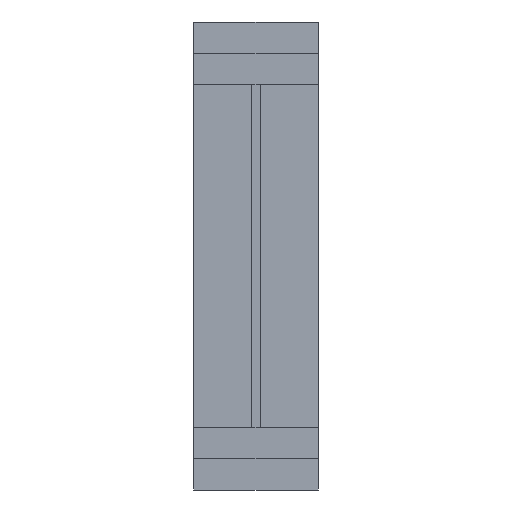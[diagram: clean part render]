
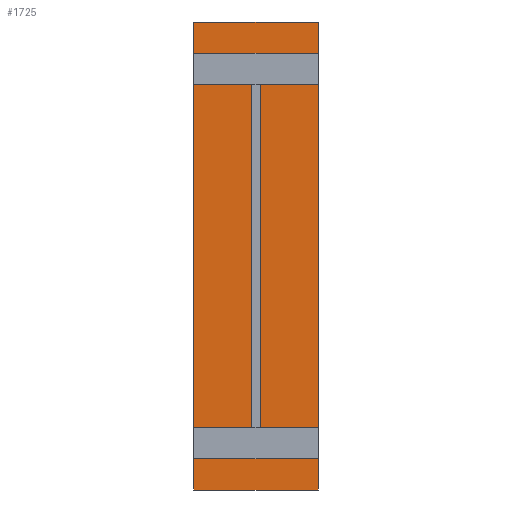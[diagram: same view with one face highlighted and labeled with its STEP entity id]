
A CAD part, front view. The second image highlights one B-rep face of the part: STEP entity #1725.
In plain terms, the highlighted planar face has unit normal (0, -1, 0).
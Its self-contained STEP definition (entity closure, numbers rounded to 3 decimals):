
#1 = CARTESIAN_POINT ( 'NONE',  ( 200., 205., 1400. ) ) ;
#19 = EDGE_CURVE ( 'NONE', #1149, #328, #725, .T. ) ;
#30 = CARTESIAN_POINT ( 'NONE',  ( 200., 205., 1300. ) ) ;
#36 = VECTOR ( 'NONE', #546, 1000. ) ;
#49 = ORIENTED_EDGE ( 'NONE', *, *, #1035, .F. ) ;
#51 = CARTESIAN_POINT ( 'NONE',  ( -190., 205., 100. ) ) ;
#59 = CARTESIAN_POINT ( 'NONE',  ( -190., 205., 0. ) ) ;
#61 = LINE ( 'NONE', #332, #1416 ) ;
#62 = CARTESIAN_POINT ( 'NONE',  ( 190., 205., 1200. ) ) ;
#64 = EDGE_CURVE ( 'NONE', #694, #1354, #61, .T. ) ;
#70 = CARTESIAN_POINT ( 'NONE',  ( 200., 205., 1400. ) ) ;
#89 = ORIENTED_EDGE ( 'NONE', *, *, #19, .F. ) ;
#99 = DIRECTION ( 'NONE',  ( -1., 0., 0. ) ) ;
#114 = VECTOR ( 'NONE', #1211, 1000. ) ;
#145 = VECTOR ( 'NONE', #1350, 1000. ) ;
#147 = DIRECTION ( 'NONE',  ( 0., 0., 1. ) ) ;
#171 = ORIENTED_EDGE ( 'NONE', *, *, #959, .F. ) ;
#217 = CARTESIAN_POINT ( 'NONE',  ( -190., 205., 1300. ) ) ;
#222 = ORIENTED_EDGE ( 'NONE', *, *, #1687, .F. ) ;
#241 = CARTESIAN_POINT ( 'NONE',  ( -190., 205., 1200. ) ) ;
#285 = ORIENTED_EDGE ( 'NONE', *, *, #1412, .F. ) ;
#289 = PLANE ( 'NONE',  #392 ) ;
#304 = VECTOR ( 'NONE', #967, 1000. ) ;
#328 = VERTEX_POINT ( 'NONE', #597 ) ;
#332 = CARTESIAN_POINT ( 'NONE',  ( -190., 205., 1200. ) ) ;
#337 = CARTESIAN_POINT ( 'NONE',  ( 200., 205., 100. ) ) ;
#338 = EDGE_CURVE ( 'NONE', #328, #434, #1016, .T. ) ;
#341 = LINE ( 'NONE', #59, #525 ) ;
#342 = ORIENTED_EDGE ( 'NONE', *, *, #1253, .F. ) ;
#348 = EDGE_CURVE ( 'NONE', #1422, #1614, #452, .T. ) ;
#370 = EDGE_CURVE ( 'NONE', #1212, #1461, #1187, .T. ) ;
#379 = ORIENTED_EDGE ( 'NONE', *, *, #585, .F. ) ;
#390 = VECTOR ( 'NONE', #926, 1000. ) ;
#391 = CARTESIAN_POINT ( 'NONE',  ( -200., 205., -100. ) ) ;
#392 = AXIS2_PLACEMENT_3D ( 'NONE', #844, #1122, #1114 ) ;
#409 = LINE ( 'NONE', #1511, #1339 ) ;
#434 = VERTEX_POINT ( 'NONE', #1683 ) ;
#452 = LINE ( 'NONE', #625, #695 ) ;
#455 = CARTESIAN_POINT ( 'NONE',  ( 200., 205., 0. ) ) ;
#492 = CARTESIAN_POINT ( 'NONE',  ( -200., 205., 1300. ) ) ;
#498 = CARTESIAN_POINT ( 'NONE',  ( 200., 205., 1300. ) ) ;
#514 = VERTEX_POINT ( 'NONE', #794 ) ;
#525 = VECTOR ( 'NONE', #1439, 1000. ) ;
#529 = CARTESIAN_POINT ( 'NONE',  ( 190., 205., 0. ) ) ;
#546 = DIRECTION ( 'NONE',  ( -1., 0., 0. ) ) ;
#549 = ORIENTED_EDGE ( 'NONE', *, *, #1176, .F. ) ;
#552 = CARTESIAN_POINT ( 'NONE',  ( 190., 205., 100. ) ) ;
#554 = VECTOR ( 'NONE', #147, 1000. ) ;
#573 = VECTOR ( 'NONE', #923, 1000. ) ;
#585 = EDGE_CURVE ( 'NONE', #1642, #914, #675, .T. ) ;
#591 = ORIENTED_EDGE ( 'NONE', *, *, #1580, .F. ) ;
#593 = CARTESIAN_POINT ( 'NONE',  ( 200., 205., 100. ) ) ;
#596 = LINE ( 'NONE', #337, #1169 ) ;
#597 = CARTESIAN_POINT ( 'NONE',  ( -190., 205., 100. ) ) ;
#617 = LINE ( 'NONE', #1323, #1734 ) ;
#621 = ORIENTED_EDGE ( 'NONE', *, *, #1045, .F. ) ;
#625 = CARTESIAN_POINT ( 'NONE',  ( 190., 205., 100. ) ) ;
#631 = CARTESIAN_POINT ( 'NONE',  ( 200., 205., 1200. ) ) ;
#661 = ORIENTED_EDGE ( 'NONE', *, *, #1125, .F. ) ;
#664 = CARTESIAN_POINT ( 'NONE',  ( -200., 205., 1300. ) ) ;
#668 = VECTOR ( 'NONE', #1692, 1000. ) ;
#675 = LINE ( 'NONE', #631, #697 ) ;
#694 = VERTEX_POINT ( 'NONE', #731 ) ;
#695 = VECTOR ( 'NONE', #1307, 1000. ) ;
#697 = VECTOR ( 'NONE', #1197, 1000. ) ;
#709 = CARTESIAN_POINT ( 'NONE',  ( -200., 205., 1400. ) ) ;
#724 = VERTEX_POINT ( 'NONE', #1579 ) ;
#725 = LINE ( 'NONE', #51, #1192 ) ;
#731 = CARTESIAN_POINT ( 'NONE',  ( -200., 205., 1200. ) ) ;
#736 = VECTOR ( 'NONE', #1468, 1000. ) ;
#747 = EDGE_CURVE ( 'NONE', #724, #1642, #1713, .T. ) ;
#755 = LINE ( 'NONE', #455, #1198 ) ;
#757 = DIRECTION ( 'NONE',  ( 0., 0., 1. ) ) ;
#793 = CARTESIAN_POINT ( 'NONE',  ( 200., 205., 0. ) ) ;
#794 = CARTESIAN_POINT ( 'NONE',  ( 200., 205., -100. ) ) ;
#800 = LINE ( 'NONE', #1613, #114 ) ;
#801 = VERTEX_POINT ( 'NONE', #902 ) ;
#803 = LINE ( 'NONE', #930, #736 ) ;
#823 = VERTEX_POINT ( 'NONE', #70 ) ;
#824 = LINE ( 'NONE', #1366, #554 ) ;
#828 = ORIENTED_EDGE ( 'NONE', *, *, #747, .F. ) ;
#830 = ORIENTED_EDGE ( 'NONE', *, *, #338, .F. ) ;
#831 = EDGE_CURVE ( 'NONE', #914, #1422, #596, .T. ) ;
#838 = ORIENTED_EDGE ( 'NONE', *, *, #1349, .F. ) ;
#844 = CARTESIAN_POINT ( 'NONE',  ( 0., 205., 0. ) ) ;
#870 = LINE ( 'NONE', #30, #36 ) ;
#902 = CARTESIAN_POINT ( 'NONE',  ( -200., 205., 0. ) ) ;
#907 = DIRECTION ( 'NONE',  ( 0., 0., -1. ) ) ;
#914 = VERTEX_POINT ( 'NONE', #593 ) ;
#923 = DIRECTION ( 'NONE',  ( 0., 0., 1. ) ) ;
#926 = DIRECTION ( 'NONE',  ( -1., 0., 0. ) ) ;
#930 = CARTESIAN_POINT ( 'NONE',  ( 190., 205., 1300. ) ) ;
#959 = EDGE_CURVE ( 'NONE', #514, #1371, #800, .T. ) ;
#967 = DIRECTION ( 'NONE',  ( 0., 0., 1. ) ) ;
#1016 = LINE ( 'NONE', #1027, #1475 ) ;
#1027 = CARTESIAN_POINT ( 'NONE',  ( -200., 205., 100. ) ) ;
#1035 = EDGE_CURVE ( 'NONE', #801, #1149, #341, .T. ) ;
#1045 = EDGE_CURVE ( 'NONE', #1614, #1365, #755, .T. ) ;
#1047 = DIRECTION ( 'NONE',  ( 0., 0., 1. ) ) ;
#1056 = CARTESIAN_POINT ( 'NONE',  ( -190., 205., 0. ) ) ;
#1073 = CARTESIAN_POINT ( 'NONE',  ( 200., 205., -100. ) ) ;
#1114 = DIRECTION ( 'NONE',  ( 0., 0., 1. ) ) ;
#1122 = DIRECTION ( 'NONE',  ( 0., 1., 0. ) ) ;
#1125 = EDGE_CURVE ( 'NONE', #1354, #1204, #617, .T. ) ;
#1147 = EDGE_LOOP ( 'NONE', ( #285, #171, #591, #621, #1592, #1403, #379, #828, #838, #1230, #1261, #342, #1442, #549, #661, #1649, #222, #830, #89, #49 ) ) ;
#1149 = VERTEX_POINT ( 'NONE', #1056 ) ;
#1169 = VECTOR ( 'NONE', #1434, 1000. ) ;
#1176 = EDGE_CURVE ( 'NONE', #1204, #1212, #1610, .T. ) ;
#1187 = LINE ( 'NONE', #1715, #573 ) ;
#1188 = EDGE_CURVE ( 'NONE', #823, #1358, #1740, .T. ) ;
#1192 = VECTOR ( 'NONE', #757, 1000. ) ;
#1197 = DIRECTION ( 'NONE',  ( 0., 0., -1. ) ) ;
#1198 = VECTOR ( 'NONE', #1301, 1000. ) ;
#1204 = VERTEX_POINT ( 'NONE', #217 ) ;
#1211 = DIRECTION ( 'NONE',  ( -1., 0., 0. ) ) ;
#1212 = VERTEX_POINT ( 'NONE', #664 ) ;
#1230 = ORIENTED_EDGE ( 'NONE', *, *, #1738, .F. ) ;
#1233 = CARTESIAN_POINT ( 'NONE',  ( -200., 205., 0. ) ) ;
#1235 = CARTESIAN_POINT ( 'NONE',  ( 200., 205., 1200. ) ) ;
#1245 = FACE_OUTER_BOUND ( 'NONE', #1147, .T. ) ;
#1251 = DIRECTION ( 'NONE',  ( 1., 0., 0. ) ) ;
#1253 = EDGE_CURVE ( 'NONE', #1461, #823, #409, .T. ) ;
#1261 = ORIENTED_EDGE ( 'NONE', *, *, #1188, .F. ) ;
#1290 = VERTEX_POINT ( 'NONE', #1319 ) ;
#1301 = DIRECTION ( 'NONE',  ( 1., 0., 0. ) ) ;
#1307 = DIRECTION ( 'NONE',  ( 0., 0., -1. ) ) ;
#1308 = VECTOR ( 'NONE', #907, 1000. ) ;
#1319 = CARTESIAN_POINT ( 'NONE',  ( 190., 205., 1300. ) ) ;
#1323 = CARTESIAN_POINT ( 'NONE',  ( -190., 205., 1300. ) ) ;
#1339 = VECTOR ( 'NONE', #1251, 1000. ) ;
#1349 = EDGE_CURVE ( 'NONE', #1290, #724, #803, .T. ) ;
#1350 = DIRECTION ( 'NONE',  ( 0., 0., -1. ) ) ;
#1354 = VERTEX_POINT ( 'NONE', #241 ) ;
#1358 = VERTEX_POINT ( 'NONE', #498 ) ;
#1365 = VERTEX_POINT ( 'NONE', #793 ) ;
#1366 = CARTESIAN_POINT ( 'NONE',  ( -200., 205., 1200. ) ) ;
#1371 = VERTEX_POINT ( 'NONE', #391 ) ;
#1403 = ORIENTED_EDGE ( 'NONE', *, *, #831, .F. ) ;
#1412 = EDGE_CURVE ( 'NONE', #1371, #801, #1634, .T. ) ;
#1416 = VECTOR ( 'NONE', #1545, 1000. ) ;
#1422 = VERTEX_POINT ( 'NONE', #552 ) ;
#1434 = DIRECTION ( 'NONE',  ( -1., 0., 0. ) ) ;
#1439 = DIRECTION ( 'NONE',  ( 1., 0., 0. ) ) ;
#1442 = ORIENTED_EDGE ( 'NONE', *, *, #370, .F. ) ;
#1461 = VERTEX_POINT ( 'NONE', #709 ) ;
#1468 = DIRECTION ( 'NONE',  ( 0., 0., -1. ) ) ;
#1475 = VECTOR ( 'NONE', #99, 1000. ) ;
#1511 = CARTESIAN_POINT ( 'NONE',  ( 200., 205., 1400. ) ) ;
#1545 = DIRECTION ( 'NONE',  ( 1., 0., 0. ) ) ;
#1579 = CARTESIAN_POINT ( 'NONE',  ( 190., 205., 1200. ) ) ;
#1580 = EDGE_CURVE ( 'NONE', #1365, #514, #1623, .T. ) ;
#1592 = ORIENTED_EDGE ( 'NONE', *, *, #348, .F. ) ;
#1610 = LINE ( 'NONE', #492, #390 ) ;
#1613 = CARTESIAN_POINT ( 'NONE',  ( 200., 205., -100. ) ) ;
#1614 = VERTEX_POINT ( 'NONE', #529 ) ;
#1623 = LINE ( 'NONE', #1073, #145 ) ;
#1634 = LINE ( 'NONE', #1233, #304 ) ;
#1642 = VERTEX_POINT ( 'NONE', #1235 ) ;
#1649 = ORIENTED_EDGE ( 'NONE', *, *, #64, .F. ) ;
#1683 = CARTESIAN_POINT ( 'NONE',  ( -200., 205., 100. ) ) ;
#1687 = EDGE_CURVE ( 'NONE', #434, #694, #824, .T. ) ;
#1692 = DIRECTION ( 'NONE',  ( 1., 0., 0. ) ) ;
#1713 = LINE ( 'NONE', #62, #668 ) ;
#1715 = CARTESIAN_POINT ( 'NONE',  ( -200., 205., 1400. ) ) ;
#1725 = ADVANCED_FACE ( 'NONE', ( #1245 ), #289, .F. ) ;
#1734 = VECTOR ( 'NONE', #1047, 1000. ) ;
#1738 = EDGE_CURVE ( 'NONE', #1358, #1290, #870, .T. ) ;
#1740 = LINE ( 'NONE', #1, #1308 ) ;
